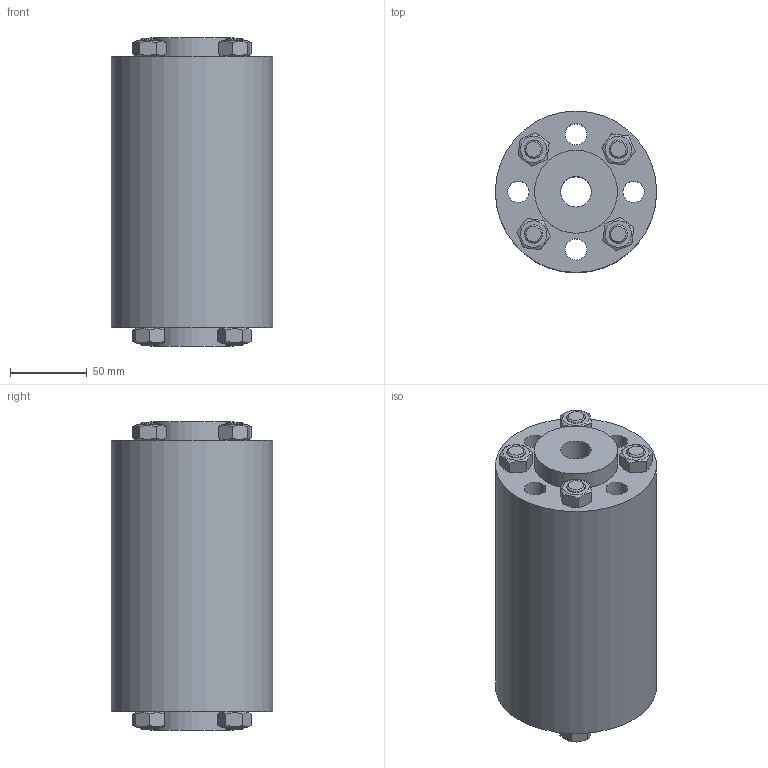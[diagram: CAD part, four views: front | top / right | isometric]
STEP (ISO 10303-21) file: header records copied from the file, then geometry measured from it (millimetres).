
FILE_DESCRIPTION(/* description */ ('ACI TYPE 620 DN20'),/* implementation_level */ '2;1');
FILE_NAME(/* name */ 'C:\Users\willms\Desktop\ACI-620-20.stp',/* time_stamp */ '2020-03-19T10:11:24+01:00',/* author */ ('götz'),/* organization */ ('ACI Industriearmaturen GmbH www.aci24.com info@aci24.com'),/* preprocessor_version */ 'ST-DEVELOPER v16.1',/* originating_system */ 'Autodesk Inventor 2016',/* authorisation */ 'ACI Industriearmaturen GmbH www.aci24.com info@aci24.com');
FILE_SCHEMA (('CONFIG_CONTROL_DESIGN'));
Length unit declared in the file: centimetre
Products named in the file (1): ACI-620-20
Bounding box: 105 x 105 x 201 mm (x, y, z)
Volume: 1441125 mm3; surface area: 127845.4 mm2
Topology: 1 solids, 9 shells, 140 faces, 313 edges, 201 vertices
Faces by surface type: plane 76, cone 40, cylinder 24
Full cylindrical faces by diameter (mm): 12 x16, 14 x4, 20 x1, 54 x2, 105 x1
Entity records: 3498 total; most frequent: CARTESIAN_POINT 749, DIRECTION 506, ORIENTED_EDGE 464, EDGE_LOOP 240, EDGE_CURVE 232, AXIS2_PLACEMENT_3D 229, VERTEX_POINT 184, FACE_OUTER_BOUND 140
